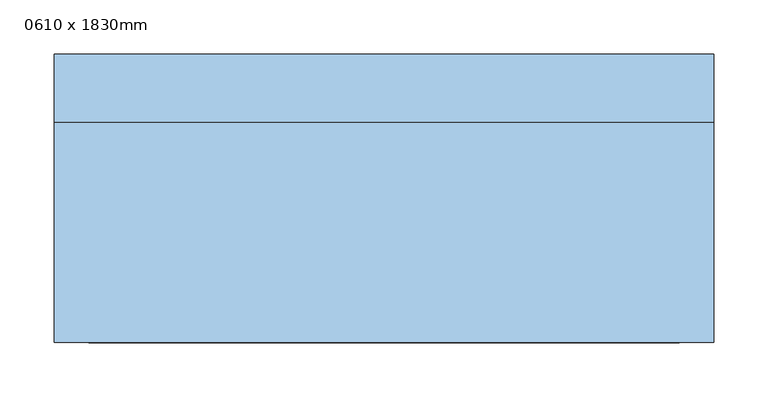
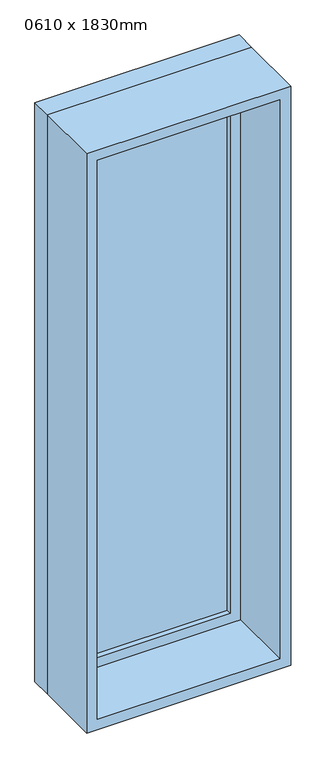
"""IFC4 building model written with IfcOpenShell, lengths in millimetres: window geometry, Pevne : 0610 x 1830mm."""

from ifc_helpers import new_model, si_unit, frame, origin, place, context, project, spatial, polyline, outline, extrude, source, transform, mapped, element, save


def window_0610_x_1830mm_aeee110f(model_context):
    return source(origin(), model_context, "Body", "SweptSolid", [
        extrude(outline(polyline([(-242.0, 111.5), (242.0, 111.5), (242.0, 99.5), (-242.0, 99.5), (-242.0, 111.5)])), frame((0.0, 0.0, 368.0), z_axis=(0.0, 0.0, 1.0), x_axis=(1.0, 0.0, 0.0)), (0.0, 0.0, 1.0), 1704.0),
        extrude(outline(polyline([(2116.0, -286.0), (324.0, -286.0), (324.0, 286.0), (2116.0, 286.0), (2116.0, -286.0)]), holes=[polyline([(2072.0, -242.0), (2072.0, 242.0), (368.0, 242.0), (368.0, -242.0), (2072.0, -242.0)])]), frame((0.0, 83.5, 0.0), z_axis=(0.0, 1.0, 0.0), x_axis=(0.0, 0.0, 1.0)), (0.0, 0.0, 1.0), 44.0),
        extrude(outline(polyline([(2135.0, -305.0), (305.0, -305.0), (305.0, 305.0), (2135.0, 305.0), (2135.0, -305.0)]), holes=[polyline([(2116.0, -286.0), (2116.0, 286.0), (324.0, 286.0), (324.0, -286.0), (2116.0, -286.0)])]), frame((0.0, 83.5, 0.0), z_axis=(0.0, 1.0, 0.0), x_axis=(0.0, 0.0, 1.0)), (0.0, 0.0, 1.0), 63.0),
        extrude(outline(polyline([(2135.0, -305.0), (305.0, -305.0), (305.0, 305.0), (2135.0, 305.0), (2135.0, -305.0)]), holes=[polyline([(2103.0, -273.0), (2103.0, 273.0), (337.0, 273.0), (337.0, -273.0), (2103.0, -273.0)])]), frame((0.0, -120.5, 0.0), z_axis=(0.0, 1.0, 0.0), x_axis=(0.0, 0.0, 1.0)), (0.0, 0.0, 1.0), 204.0),
    ])


if __name__ == "__main__":
    model = new_model("IFC4")
    model_context = context("Model", 3, world=origin())
    ifc_project = project(units=[si_unit("LENGTHUNIT", "METRE", prefix="MILLI")], contexts=[model_context])
    site = spatial("IfcSite", under=ifc_project)
    building = spatial("IfcBuilding", under=site)
    placement = place(None, origin())
    window_0610_x_1830mm_shape = window_0610_x_1830mm_aeee110f(model_context)
    element("IfcWindow", 1, ObjectType="Pevne : 0610 x 1830mm", at=placement, inside=building, context=model_context, shape_type="MappedRepresentation", body=[
        mapped(window_0610_x_1830mm_shape, transform((0.0, 0.0, 0.0), x_axis=(1.0, 0.0, 0.0), y_axis=(0.0, 1.0, 0.0), z_axis=(0.0, 0.0, 1.0))),
    ])
    save(model, "model.ifc")
